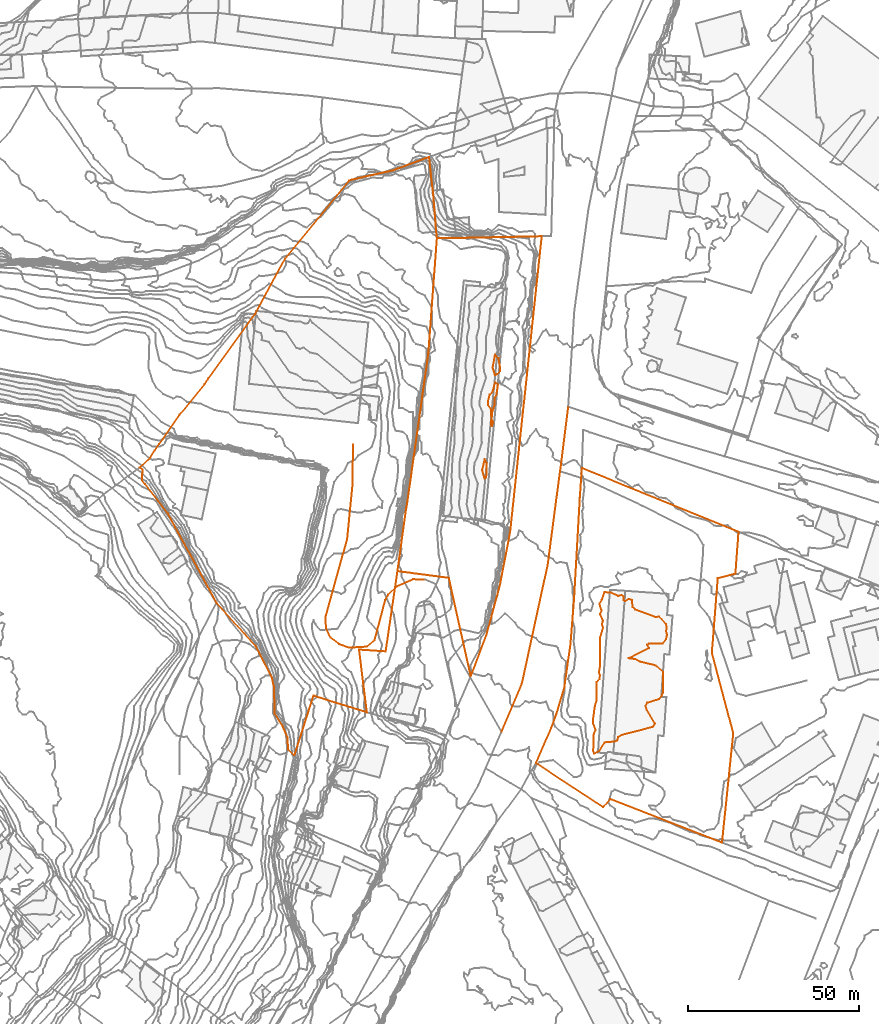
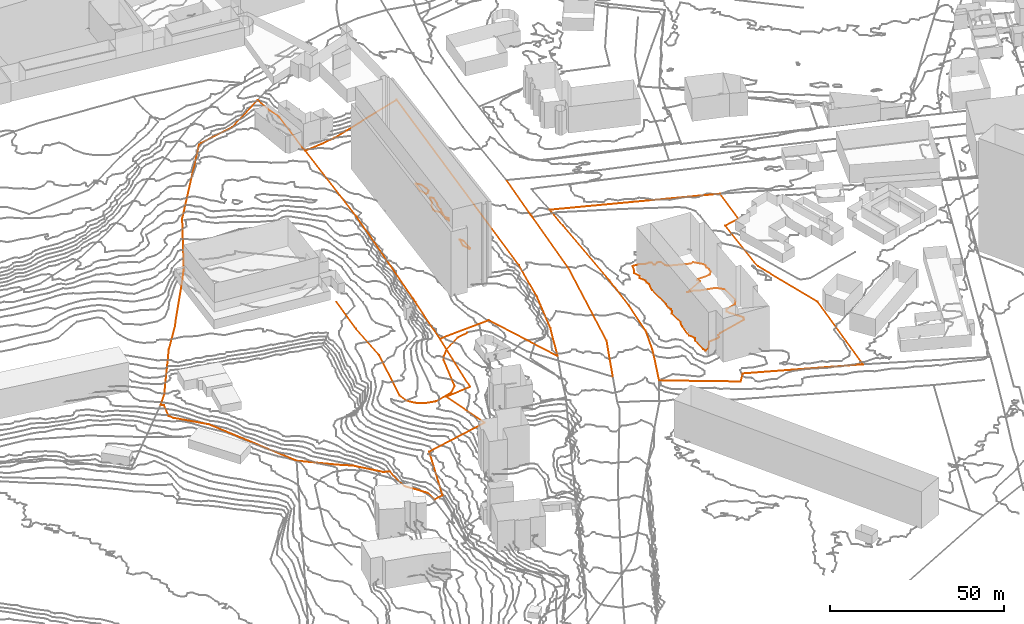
# Not in any storey, part 184 of 419: 10 proxies.
"""IFC2X3 model written with IfcOpenShell, lengths in metres."""

from ifc_helpers import new_model, entity, si_unit, frame, origin_with_axes, place, context, subcontext, project, element, save


model = new_model("IFC2X3")

# Units and contexts
model_context = context("Model", 3, precision=1e-05, world=origin_with_axes())
body_context = subcontext(model_context, "Body", "Model", "MODEL_VIEW")
ifc_project = project(units=[si_unit("AREAUNIT", "SQUARE_METRE"), si_unit("LENGTHUNIT", "METRE")], contexts=[model_context])

# Proxies
proxy_1_placement = place(None, frame((622.5920204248, 148.0976909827, 63.3), z_axis=(0.0, 0.0, 1.0), x_axis=(1.0, 0.0, 0.0)))
element("IfcBuildingElementProxy", 1, at=proxy_1_placement, Name="Route 2", ObjectType="NOTDEFINED", context=body_context, shape_type="GeometricCurveSet", body=[
    entity("IfcGeometricCurveSet", [entity("IfcPolyline", [entity("IfcCartesianPoint", [8.0, 50.5, -0.3]), entity("IfcCartesianPoint", [7.9, 38.8999999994, -2.8]), entity("IfcCartesianPoint", [6.3, 22.7000000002, -1.7]), entity("IfcCartesianPoint", [0.0, 0.0, 0.0]), entity("IfcCartesianPoint", [0.1, -3.4000000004, 0.3]), entity("IfcCartesianPoint", [1.5, -6.2000000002, 0.7]), entity("IfcCartesianPoint", [4.0, -8.1000000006, 0.9]), entity("IfcCartesianPoint", [6.9, -9.1000000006, 1.1]), entity("IfcCartesianPoint", [12.0, -8.7999999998, 2.2]), entity("IfcCartesianPoint", [14.3, -6.9000000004, 2.6]), entity("IfcCartesianPoint", [17.4, 4.7999999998, 3.4]), entity("IfcCartesianPoint", [18.3, 6.3999999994, 3.5]), entity("IfcCartesianPoint", [20.7, 8.7999999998, 3.7]), entity("IfcCartesianPoint", [25.5, 10.8999999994, 4.9]), entity("IfcCartesianPoint", [28.7, 10.7999999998, 5.5])])]),
])
proxy_2_placement = place(None, frame((691.0920204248, 190.4976909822, 76.4), z_axis=(0.0, 0.0, 1.0), x_axis=(1.0, 0.0, 0.0)))
element("IfcBuildingElementProxy", 2, at=proxy_2_placement, Name="Route 13", ObjectType="NOTDEFINED", context=body_context, shape_type="GeometricCurveSet", body=[
    entity("IfcGeometricCurveSet", [entity("IfcPolyline", [entity("IfcCartesianPoint", [2.4, 18.9000000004, 0.6]), entity("IfcCartesianPoint", [0.2, 1.3000000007, 0.0]), entity("IfcCartesianPoint", [0.0, 0.0, 0.0])])]),
])
proxy_3_placement = place(None, frame((673.9920204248, 114.4976909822, 72.3), z_axis=(0.0, 0.0, 1.0), x_axis=(1.0, 0.0, 0.0)))
element("IfcBuildingElementProxy", 3, at=proxy_3_placement, Name="Route 267", ObjectType="NOTDEFINED", context=body_context, shape_type="GeometricCurveSet", body=[
    entity("IfcGeometricCurveSet", [entity("IfcPolyline", [entity("IfcCartesianPoint", [17.1, 76.0, 4.1]), entity("IfcCartesianPoint", [13.5, 48.7000000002, 3.7]), entity("IfcCartesianPoint", [5.9, 13.8000000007, 2.3]), entity("IfcCartesianPoint", [0.0, 0.0, 0.0])])]),
])
proxy_4_placement = place(None, frame((684.0520204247, 105.2476909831, 73.0906875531), z_axis=(0.0, 0.0, 1.0), x_axis=(1.0, 0.0, 0.0)))
element("IfcBuildingElementProxy", 4, at=proxy_4_placement, Name="Cadastre 116", ObjectType="NOTDEFINED", context=body_context, shape_type="GeometricCurveSet", body=[
    entity("IfcGeometricCurveSet", [entity("IfcPolyline", [entity("IfcCartesianPoint", [0.0, 0.0, 0.0]), entity("IfcCartesianPoint", [4.4500000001, 10.3199999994, -0.2765010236]), entity("IfcCartesianPoint", [5.9300000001, 14.2599999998, 0.3478705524]), entity("IfcCartesianPoint", [8.3200000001, 22.2299999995, 1.1970165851]), entity("IfcCartesianPoint", [10.1100000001, 34.8599999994, 1.6339596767]), entity("IfcCartesianPoint", [11.15, 47.7899999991, 2.2490657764]), entity("IfcCartesianPoint", [12.8300000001, 77.4699999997, 2.854442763]), entity("IfcCartesianPoint", [13.4400000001, 86.21, 2.9860889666]), entity("IfcCartesianPoint", [59.2200000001, 67.5899999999, 3.8690242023]), entity("IfcCartesianPoint", [58.3100000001, 55.3999999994, 2.8700881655]), entity("IfcCartesianPoint", [53.15, 54.0299999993, 2.9955660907]), entity("IfcCartesianPoint", [51.4300000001, 32.2699999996, 2.5149778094]), entity("IfcCartesianPoint", [57.6900000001, 8.7599999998, 2.1053367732]), entity("IfcCartesianPoint", [54.39, -23.2300000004, 0.704563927]), entity("IfcCartesianPoint", [21.7100000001, -10.4700000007, 1.2146997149]), entity("IfcCartesianPoint", [19.6200000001, -12.8700000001, 0.5733157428]), entity("IfcCartesianPoint", [0.0, 0.0, 0.0])])]),
])
proxy_5_placement = place(None, frame((643.5920204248, 161.3576909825, 67.8891995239), z_axis=(0.0, 0.0, 1.0), x_axis=(1.0, 0.0, 0.0)))
element("IfcBuildingElementProxy", 5, at=proxy_5_placement, Name="Cadastre 119", ObjectType="NOTDEFINED", context=body_context, shape_type="GeometricCurveSet", body=[
    entity("IfcGeometricCurveSet", [entity("IfcPolyline", [entity("IfcCartesianPoint", [0.0, 0.0, 0.0]), entity("IfcCartesianPoint", [2.5700000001, 18.5200000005, 0.7190993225]), entity("IfcCartesianPoint", [2.96, 20.7199999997, 0.7521778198]), entity("IfcCartesianPoint", [9.02, 63.5700000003, 1.2466244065]), entity("IfcCartesianPoint", [11.53, 97.4000000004, 2.8990730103]), entity("IfcCartesianPoint", [17.22, 97.3900000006, 3.5051501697]), entity("IfcCartesianPoint", [21.23, 97.4299999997, 4.0483504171]), entity("IfcCartesianPoint", [42.17, 97.8799999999, 9.8104291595]), entity("IfcCartesianPoint", [32.9500000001, 11.6000000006, 7.2903603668]), entity("IfcCartesianPoint", [29.98, -3.9500000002, 6.6728901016]), entity("IfcCartesianPoint", [26.0, -18.5700000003, 5.9259008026]), entity("IfcCartesianPoint", [21.41, -30.7000000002, 4.9773010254]), entity("IfcCartesianPoint", [15.05, -1.9699999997, 2.3957972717]), entity("IfcCartesianPoint", [0.0, 0.0, 0.0])])]),
])
proxy_6_placement = place(None, frame((568.2420204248, 191.6476909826, 52.5406248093), z_axis=(0.0, 0.0, 1.0), x_axis=(1.0, 0.0, 0.0)))
element("IfcBuildingElementProxy", 6, at=proxy_6_placement, Name="Cadastre 121", ObjectType="NOTDEFINED", context=body_context, shape_type="GeometricCurveSet", body=[
    entity("IfcGeometricCurveSet", [entity("IfcPolyline", [entity("IfcCartesianPoint", [84.61, 90.7599999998, 22.5616030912]), entity("IfcCartesianPoint", [85.23, 84.7400000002, 22.3114319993]), entity("IfcCartesianPoint", [85.79, 79.9400000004, 22.7272799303]), entity("IfcCartesianPoint", [86.76, 67.9100000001, 18.4532326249]), entity("IfcCartesianPoint", [86.88, 67.1100000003, 18.247647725]), entity("IfcCartesianPoint", [84.37, 33.2800000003, 16.5951991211]), entity("IfcCartesianPoint", [78.3099999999, -9.5700000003, 16.1007525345]), entity("IfcCartesianPoint", [77.92, -11.7699999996, 16.0676740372]), entity("IfcCartesianPoint", [75.35, -30.29, 15.3485747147]), entity("IfcCartesianPoint", [71.9, -53.7299999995, 13.8865343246]), entity("IfcCartesianPoint", [64.14, -53.2199999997, 12.7962665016]), entity("IfcCartesianPoint", [66.42, -71.5499999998, 13.9917759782]), entity("IfcCartesianPoint", [50.8, -66.71, 6.3682954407]), entity("IfcCartesianPoint", [45.2, -84.0999999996, 3.5233005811]), entity("IfcCartesianPoint", [43.45, -82.3899999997, 1.6842751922]), entity("IfcCartesianPoint", [43.17, -78.9100000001, 1.9704383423]), entity("IfcCartesianPoint", [41.71, -75.3700000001, 1.431182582]), entity("IfcCartesianPoint", [39.5, -71.9500000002, 1.3485256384]), entity("IfcCartesianPoint", [39.26, -64.0599999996, 1.8081690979]), entity("IfcCartesianPoint", [38.63, -61.25, 0.1849751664]), entity("IfcCartesianPoint", [33.95, -52.1899999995, -1.4721037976]), entity("IfcCartesianPoint", [30.65, -48.5599999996, -2.1623245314]), entity("IfcCartesianPoint", [22.45, -39.4799999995, -3.4141143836]), entity("IfcCartesianPoint", [8.28, -13.4199999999, -1.4607445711]), entity("IfcCartesianPoint", [1.63, -4.8700000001, -2.0597605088]), entity("IfcCartesianPoint", [0.66, -3.6899999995, -1.8023893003]), entity("IfcCartesianPoint", [0.87, -0.5300000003, 0.0423349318]), entity("IfcCartesianPoint", [0.0, 0.0, 0.0]), entity("IfcCartesianPoint", [2.89, 2.6399999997, 1.4201805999]), entity("IfcCartesianPoint", [4.39, 5.0200000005, 1.8245150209]), entity("IfcCartesianPoint", [5.63, 6.79, 2.4783206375]), entity("IfcCartesianPoint", [11.6800000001, 15.4100000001, 6.1147509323]), entity("IfcCartesianPoint", [19.02, 24.4100000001, 6.6694099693]), entity("IfcCartesianPoint", [20.05, 26.0300000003, 6.7702943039]), entity("IfcCartesianPoint", [31.22, 41.4800000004, 7.6321323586]), entity("IfcCartesianPoint", [32.99, 43.9299999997, 8.8435118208]), entity("IfcCartesianPoint", [33.7, 44.9100000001, 9.5385545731]), entity("IfcCartesianPoint", [42.53, 61.1299999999, 13.6518940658]), entity("IfcCartesianPoint", [61.23, 83.8399999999, 19.2924352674]), entity("IfcCartesianPoint", [62.03, 84.1500000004, 19.343695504]), entity("IfcCartesianPoint", [73.96, 86.8100000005, 19.0888853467]), entity("IfcCartesianPoint", [84.61, 90.7599999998, 22.5616030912])])]),
])
proxy_7_placement = place(None, frame((671.4253608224, 220.8976909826, 74.0), z_axis=(0.0, 0.0, 1.0), x_axis=(1.0, 0.0, 0.0)))
element("IfcBuildingElementProxy", 7, at=proxy_7_placement, Name="Contour 74.0 m", ObjectType="NOTDEFINED", context=body_context, shape_type="GeometricCurveSet", body=[
    entity("IfcGeometricCurveSet", [entity("IfcPolyline", [entity("IfcCartesianPoint", [1.3332414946, -2.0, 0.0]), entity("IfcCartesianPoint", [0.6666596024, -2.1817992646, 0.0]), entity("IfcCartesianPoint", [0.0, 0.0, 0.0]), entity("IfcCartesianPoint", [0.6666596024, 3.7499523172, 0.0]), entity("IfcCartesianPoint", [1.6666596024, 2.6665818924, 0.0]), entity("IfcCartesianPoint", [2.1666721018, 0.0, 0.0]), entity("IfcCartesianPoint", [2.1666846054, -1.0, 0.0]), entity("IfcCartesianPoint", [1.3332414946, -2.0, 0.0])])]),
])
proxy_8_placement = place(None, frame((670.0188519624, 210.8976909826, 74.0), z_axis=(0.0, 0.0, 1.0), x_axis=(1.0, 0.0, 0.0)))
element("IfcBuildingElementProxy", 8, at=proxy_8_placement, Name="Contour 74.0 m", ObjectType="NOTDEFINED", context=body_context, shape_type="GeometricCurveSet", body=[
    entity("IfcGeometricCurveSet", [entity("IfcPolyline", [entity("IfcCartesianPoint", [1.1640964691, -7.0, 0.0]), entity("IfcCartesianPoint", [1.0731684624, -7.2000305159, 0.0]), entity("IfcCartesianPoint", [0.8672847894, -6.0, 0.0]), entity("IfcCartesianPoint", [1.0731654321, -5.0, 0.0]), entity("IfcCartesianPoint", [0.8557670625, -2.0, 0.0]), entity("IfcCartesianPoint", [0.0481632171, -1.0, 0.0]), entity("IfcCartesianPoint", [0.0, 0.0, 0.0]), entity("IfcCartesianPoint", [0.5214334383, 2.0, 0.0]), entity("IfcCartesianPoint", [1.3731608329, 3.0, 0.0]), entity("IfcCartesianPoint", [2.0731684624, 5.5833174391, 0.0]), entity("IfcCartesianPoint", [2.9481446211, 5.0, 0.0]), entity("IfcCartesianPoint", [2.4731837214, 2.0, 0.0]), entity("IfcCartesianPoint", [1.9822404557, 1.0, 0.0]), entity("IfcCartesianPoint", [1.9065229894, -1.0, 0.0]), entity("IfcCartesianPoint", [1.2953624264, -3.0, 0.0]), entity("IfcCartesianPoint", [1.073177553, -5.0, 0.0]), entity("IfcCartesianPoint", [1.5731756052, -6.0, 0.0]), entity("IfcCartesianPoint", [1.1640964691, -7.0, 0.0])])]),
])
proxy_9_placement = place(None, frame((668.3586904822, 190.8976909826, 74.0), z_axis=(0.0, 0.0, 1.0), x_axis=(1.0, 0.0, 0.0)))
element("IfcBuildingElementProxy", 9, at=proxy_9_placement, Name="Contour 74.0 m", ObjectType="NOTDEFINED", context=body_context, shape_type="GeometricCurveSet", body=[
    entity("IfcGeometricCurveSet", [entity("IfcPolyline", [entity("IfcCartesianPoint", [1.194859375, -2.0, 0.0]), entity("IfcCartesianPoint", [0.7333299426, -2.5454293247, 0.0]), entity("IfcCartesianPoint", [0.0, 0.0, 0.0]), entity("IfcCartesianPoint", [0.7333299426, 3.2105284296, 0.0]), entity("IfcCartesianPoint", [1.3333299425, 2.0, 0.0]), entity("IfcCartesianPoint", [1.194859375, -2.0, 0.0])])]),
])
proxy_10_placement = place(None, frame((700.7283777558, 117.8976909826, 76.0), z_axis=(0.0, 0.0, 1.0), x_axis=(1.0, 0.0, 0.0)))
element("IfcBuildingElementProxy", 10, at=proxy_10_placement, Name="Contour 76.0 m", ObjectType="NOTDEFINED", context=body_context, shape_type="GeometricCurveSet", body=[
    entity("IfcGeometricCurveSet", [entity("IfcPolyline", [entity("IfcCartesianPoint", [1.9091066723, -9.0, 0.0]), entity("IfcCartesianPoint", [0.3636426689, -9.8666836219, 0.0]), entity("IfcCartesianPoint", [0.0810393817, -9.0, 0.0]), entity("IfcCartesianPoint", [0.2525292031, -4.0, 0.0]), entity("IfcCartesianPoint", [0.748267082, -3.0, 0.0]), entity("IfcCartesianPoint", [0.0533032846, -1.0, 0.0]), entity("IfcCartesianPoint", [0.0, 0.0, 0.0]), entity("IfcCartesianPoint", [0.5511396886, 4.0, 0.0]), entity("IfcCartesianPoint", [1.125540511, 6.0, 0.0]), entity("IfcCartesianPoint", [1.1222651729, 11.0, 0.0]), entity("IfcCartesianPoint", [1.8874573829, 12.0, 0.0]), entity("IfcCartesianPoint", [2.0493538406, 13.0, 0.0]), entity("IfcCartesianPoint", [1.7803252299, 14.0, 0.0]), entity("IfcCartesianPoint", [2.1136426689, 16.0, 0.0]), entity("IfcCartesianPoint", [2.0606186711, 24.0, 0.0]), entity("IfcCartesianPoint", [2.9350868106, 27.0, 0.0]), entity("IfcCartesianPoint", [2.6493647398, 28.0, 0.0]), entity("IfcCartesianPoint", [2.9191888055, 29.0, 0.0]), entity("IfcCartesianPoint", [2.0302923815, 31.0, 0.0]), entity("IfcCartesianPoint", [2.5302881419, 32.0, 0.0]), entity("IfcCartesianPoint", [1.8636260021, 34.0, 0.0]), entity("IfcCartesianPoint", [2.5636121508, 35.0, 0.0]), entity("IfcCartesianPoint", [3.3636426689, 37.3332909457, 0.0]), entity("IfcCartesianPoint", [5.3636426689, 37.1428882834, 0.0]), entity("IfcCartesianPoint", [7.3636426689, 36.2499761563, 0.0]), entity("IfcCartesianPoint", [8.3636426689, 36.5000124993, 0.0]), entity("IfcCartesianPoint", [8.9350868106, 36.0, 0.0]), entity("IfcCartesianPoint", [8.9350868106, 35.0, 0.0]), entity("IfcCartesianPoint", [9.3636426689, 34.666666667, 0.0]), entity("IfcCartesianPoint", [10.3636426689, 35.3332909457, 0.0]), entity("IfcCartesianPoint", [11.3636426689, 35.0000999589, 0.0]), entity("IfcCartesianPoint", [11.6136903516, 33.0, 0.0]), entity("IfcCartesianPoint", [12.3636426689, 32.2500476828, 0.0]), entity("IfcCartesianPoint", [18.3636426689, 30.000033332, 0.0]), entity("IfcCartesianPoint", [19.3636426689, 30.2500476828, 0.0]), entity("IfcCartesianPoint", [21.3636426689, 28.0000500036, 0.0]), entity("IfcCartesianPoint", [21.5636731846, 27.0, 0.0]), entity("IfcCartesianPoint", [21.3636526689, 26.0, 0.0]), entity("IfcCartesianPoint", [21.6493647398, 25.0, 0.0]), entity("IfcCartesianPoint", [21.3636426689, 23.5714441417, 0.0]), entity("IfcCartesianPoint", [20.3636426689, 22.3749761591, 0.0]), entity("IfcCartesianPoint", [16.3636426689, 22.2500476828, 0.0]), entity("IfcCartesianPoint", [15.8636926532, 22.0, 0.0]), entity("IfcCartesianPoint", [16.3636926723, 21.0, 0.0]), entity("IfcCartesianPoint", [10.3637426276, 18.0, 0.0]), entity("IfcCartesianPoint", [12.3636426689, 17.7857220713, 0.0]), entity("IfcCartesianPoint", [13.7386188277, 17.0, 0.0]), entity("IfcCartesianPoint", [18.3636426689, 15.9062537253, 0.0]), entity("IfcCartesianPoint", [20.4588651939, 14.0, 0.0]), entity("IfcCartesianPoint", [20.4505862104, 8.0, 0.0]), entity("IfcCartesianPoint", [20.0107120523, 7.0, 0.0]), entity("IfcCartesianPoint", [19.3636426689, 6.0833492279, 0.0]), entity("IfcCartesianPoint", [15.8636926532, 5.0, 0.0]), entity("IfcCartesianPoint", [15.3636760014, 4.0, 0.0]), entity("IfcCartesianPoint", [15.6970607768, 3.0, 0.0]), entity("IfcCartesianPoint", [18.1135949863, -1.0, 0.0]), entity("IfcCartesianPoint", [17.6136903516, -2.0, 0.0]), entity("IfcCartesianPoint", [8.3636426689, -4.39996948, 0.0]), entity("IfcCartesianPoint", [7.3636760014, -5.0, 0.0]), entity("IfcCartesianPoint", [7.1135949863, -6.0, 0.0]), entity("IfcCartesianPoint", [6.3636426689, -6.333333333, 0.0]), entity("IfcCartesianPoint", [3.3636426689, -6.565215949, 0.0]), entity("IfcCartesianPoint", [1.9091066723, -9.0, 0.0])])]),
])

save(model, "model.ifc")
